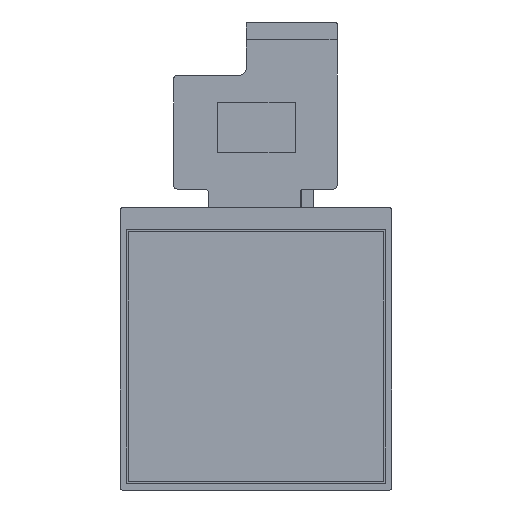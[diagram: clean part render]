
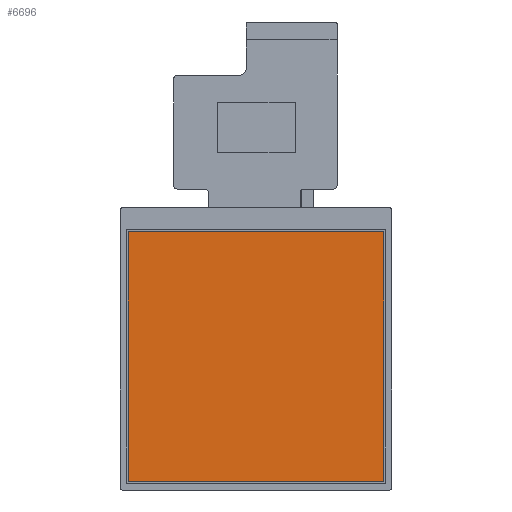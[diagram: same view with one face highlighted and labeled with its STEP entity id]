
A CAD part, front view. The second image highlights one B-rep face of the part: STEP entity #6696.
In plain terms, the highlighted planar face has unit normal (0, -1, 0).
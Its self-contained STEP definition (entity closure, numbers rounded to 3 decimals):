
#147 = LINE ( 'NONE', #6360, #8275 ) ;
#212 = EDGE_CURVE ( 'NONE', #6265, #8332, #13046, .T. ) ;
#332 = CARTESIAN_POINT ( 'NONE',  ( 1.772, -2.7, -6.274 ) ) ;
#460 = CARTESIAN_POINT ( 'NONE',  ( 0., -2.7, 0. ) ) ;
#1534 = DIRECTION ( 'NONE',  ( 0., 0., 1. ) ) ;
#1662 = LINE ( 'NONE', #8169, #12617 ) ;
#1958 = CARTESIAN_POINT ( 'NONE',  ( 1.772, -2.7, -6.274 ) ) ;
#2721 = DIRECTION ( 'NONE',  ( -1., 0., 0. ) ) ;
#3461 = ORIENTED_EDGE ( 'NONE', *, *, #13381, .T. ) ;
#3598 = CARTESIAN_POINT ( 'NONE',  ( 73.628, -2.7, -6.274 ) ) ;
#4296 = ORIENTED_EDGE ( 'NONE', *, *, #212, .T. ) ;
#4329 = DIRECTION ( 'NONE',  ( 1., 0., 0. ) ) ;
#4399 = EDGE_CURVE ( 'NONE', #5174, #4519, #1662, .T. ) ;
#4519 = VERTEX_POINT ( 'NONE', #6525 ) ;
#5174 = VERTEX_POINT ( 'NONE', #5370 ) ;
#5370 = CARTESIAN_POINT ( 'NONE',  ( 1.772, -2.7, -76.45 ) ) ;
#5931 = ORIENTED_EDGE ( 'NONE', *, *, #4399, .T. ) ;
#6265 = VERTEX_POINT ( 'NONE', #3598 ) ;
#6360 = CARTESIAN_POINT ( 'NONE',  ( 73.628, -2.7, -6.274 ) ) ;
#6525 = CARTESIAN_POINT ( 'NONE',  ( 73.628, -2.7, -76.45 ) ) ;
#6643 = DIRECTION ( 'NONE',  ( 0., 0., -1. ) ) ;
#6696 = ADVANCED_FACE ( 'NONE', ( #7815 ), #9969, .F. ) ;
#7375 = VECTOR ( 'NONE', #2721, 1000. ) ;
#7417 = AXIS2_PLACEMENT_3D ( 'NONE', #460, #7873, #1534 ) ;
#7452 = DIRECTION ( 'NONE',  ( 0., 0., 1. ) ) ;
#7815 = FACE_OUTER_BOUND ( 'NONE', #10480, .T. ) ;
#7873 = DIRECTION ( 'NONE',  ( 0., 1., 0. ) ) ;
#8169 = CARTESIAN_POINT ( 'NONE',  ( 73.628, -2.7, -76.45 ) ) ;
#8275 = VECTOR ( 'NONE', #7452, 1000. ) ;
#8332 = VERTEX_POINT ( 'NONE', #1958 ) ;
#8585 = ORIENTED_EDGE ( 'NONE', *, *, #10200, .T. ) ;
#9969 = PLANE ( 'NONE',  #7417 ) ;
#10200 = EDGE_CURVE ( 'NONE', #8332, #5174, #10770, .T. ) ;
#10480 = EDGE_LOOP ( 'NONE', ( #4296, #8585, #5931, #3461 ) ) ;
#10770 = LINE ( 'NONE', #11954, #13274 ) ;
#11954 = CARTESIAN_POINT ( 'NONE',  ( 1.772, -2.7, -76.45 ) ) ;
#12617 = VECTOR ( 'NONE', #4329, 1000. ) ;
#13046 = LINE ( 'NONE', #332, #7375 ) ;
#13274 = VECTOR ( 'NONE', #6643, 1000. ) ;
#13381 = EDGE_CURVE ( 'NONE', #4519, #6265, #147, .T. ) ;
